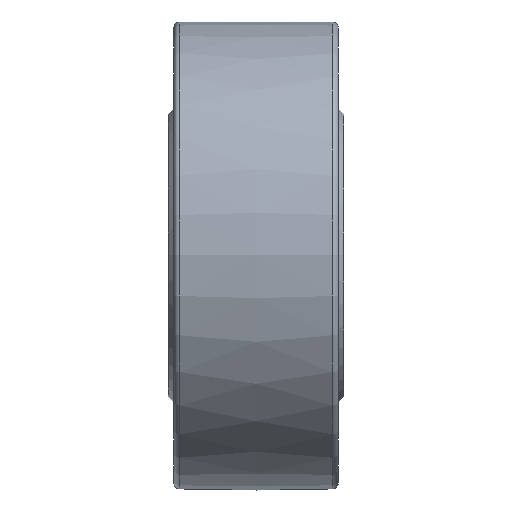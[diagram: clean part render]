
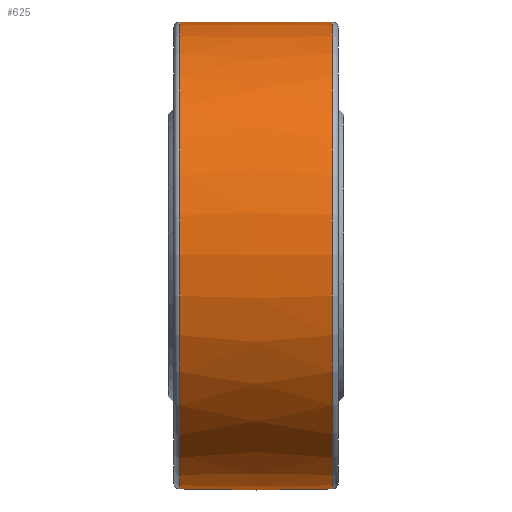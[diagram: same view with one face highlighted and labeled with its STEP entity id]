
A CAD part, front view. The second image highlights one B-rep face of the part: STEP entity #625.
In plain terms, the highlighted free-form (B-spline) face has degree [2, 2] with [3, 9] control points.
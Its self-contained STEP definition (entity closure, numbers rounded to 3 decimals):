
#175=(
BOUNDED_CURVE()
B_SPLINE_CURVE(2,(#1103,#1104,#1105),.UNSPECIFIED.,.F.,.F.)
B_SPLINE_CURVE_WITH_KNOTS((3,3),(-0.028,0.028),
 .UNSPECIFIED.)
CURVE()
GEOMETRIC_REPRESENTATION_ITEM()
RATIONAL_B_SPLINE_CURVE((1.,1.,1.))
REPRESENTATION_ITEM('')
);
#176=(
BOUNDED_SURFACE()
B_SPLINE_SURFACE(2,2,((#1072,#1073,#1074,#1075,#1076,#1077,#1078,#1079,
#1080),(#1081,#1082,#1083,#1084,#1085,#1086,#1087,#1088,#1089),(#1090,#1091,
#1092,#1093,#1094,#1095,#1096,#1097,#1098)),.UNSPECIFIED.,.F.,.T.,.F.)
B_SPLINE_SURFACE_WITH_KNOTS((3,3),(3,2,2,2,3),(-0.028,0.028),
(-3.142,-1.571,0.,1.571,3.142),
 .UNSPECIFIED.)
GEOMETRIC_REPRESENTATION_ITEM()
RATIONAL_B_SPLINE_SURFACE(((1.,0.707,1.,0.707,1.,
0.707,1.,0.707,1.),(1.,0.707,
1.,0.707,1.,0.707,
1.,0.707,1.),(1.,0.707,
1.,0.707,1.,0.707,1.,0.707,1.)))
REPRESENTATION_ITEM('')
SURFACE()
);
#224=FACE_OUTER_BOUND('',#274,.T.);
#274=EDGE_LOOP('',(#521,#522,#523,#524,#525,#526));
#368=CIRCLE('',#683,42.531);
#369=CIRCLE('',#684,42.531);
#370=CIRCLE('',#685,42.531);
#371=CIRCLE('',#686,42.531);
#418=VERTEX_POINT('',#1068);
#419=VERTEX_POINT('',#1069);
#420=VERTEX_POINT('',#1099);
#421=VERTEX_POINT('',#1100);
#468=EDGE_CURVE('',#418,#419,#368,.T.);
#469=EDGE_CURVE('',#419,#418,#369,.T.);
#470=EDGE_CURVE('',#420,#421,#370,.T.);
#471=EDGE_CURVE('',#421,#420,#371,.T.);
#472=EDGE_CURVE('',#421,#419,#175,.T.);
#521=ORIENTED_EDGE('',*,*,#470,.F.);
#522=ORIENTED_EDGE('',*,*,#471,.F.);
#523=ORIENTED_EDGE('',*,*,#472,.T.);
#524=ORIENTED_EDGE('',*,*,#468,.F.);
#525=ORIENTED_EDGE('',*,*,#469,.F.);
#526=ORIENTED_EDGE('',*,*,#472,.F.);
#625=ADVANCED_FACE('',(#224),#176,.F.);
#683=AXIS2_PLACEMENT_3D('',#1070,#814,#815);
#684=AXIS2_PLACEMENT_3D('',#1071,#816,#817);
#685=AXIS2_PLACEMENT_3D('',#1101,#818,#819);
#686=AXIS2_PLACEMENT_3D('',#1102,#820,#821);
#814=DIRECTION('center_axis',(-1.,0.,0.));
#815=DIRECTION('ref_axis',(0.,-1.,0.));
#816=DIRECTION('center_axis',(-1.,0.,0.));
#817=DIRECTION('ref_axis',(0.,-1.,0.));
#818=DIRECTION('center_axis',(1.,0.,0.));
#819=DIRECTION('ref_axis',(0.,-1.,0.));
#820=DIRECTION('center_axis',(1.,0.,0.));
#821=DIRECTION('ref_axis',(0.,-1.,0.));
#1068=CARTESIAN_POINT('',(-13.931,42.531,0.));
#1069=CARTESIAN_POINT('',(-13.931,0.,42.531));
#1070=CARTESIAN_POINT('Origin',(-13.931,0.,
0.));
#1071=CARTESIAN_POINT('Origin',(-13.931,0.,
0.));
#1072=CARTESIAN_POINT('Ctrl Pts',(-13.931,0.,
42.531));
#1073=CARTESIAN_POINT('Ctrl Pts',(-13.931,-42.531,42.531));
#1074=CARTESIAN_POINT('Ctrl Pts',(-13.931,-42.531,0.));
#1075=CARTESIAN_POINT('Ctrl Pts',(-13.931,-42.531,-42.531));
#1076=CARTESIAN_POINT('Ctrl Pts',(-13.931,0.,
-42.531));
#1077=CARTESIAN_POINT('Ctrl Pts',(-13.931,42.531,-42.531));
#1078=CARTESIAN_POINT('Ctrl Pts',(-13.931,42.531,0.));
#1079=CARTESIAN_POINT('Ctrl Pts',(-13.931,42.531,42.531));
#1080=CARTESIAN_POINT('Ctrl Pts',(-13.931,0.,
42.531));
#1081=CARTESIAN_POINT('Ctrl Pts',(0.,0.,
42.919));
#1082=CARTESIAN_POINT('Ctrl Pts',(0.,-42.919,
42.919));
#1083=CARTESIAN_POINT('Ctrl Pts',(0.,-42.919,
0.));
#1084=CARTESIAN_POINT('Ctrl Pts',(0.,-42.919,
-42.919));
#1085=CARTESIAN_POINT('Ctrl Pts',(0.,0.,
-42.919));
#1086=CARTESIAN_POINT('Ctrl Pts',(0.,42.919,
-42.919));
#1087=CARTESIAN_POINT('Ctrl Pts',(0.,42.919,
0.));
#1088=CARTESIAN_POINT('Ctrl Pts',(0.,42.919,
42.919));
#1089=CARTESIAN_POINT('Ctrl Pts',(0.,0.,
42.919));
#1090=CARTESIAN_POINT('Ctrl Pts',(13.931,0.,
42.531));
#1091=CARTESIAN_POINT('Ctrl Pts',(13.931,-42.531,42.531));
#1092=CARTESIAN_POINT('Ctrl Pts',(13.931,-42.531,0.));
#1093=CARTESIAN_POINT('Ctrl Pts',(13.931,-42.531,-42.531));
#1094=CARTESIAN_POINT('Ctrl Pts',(13.931,0.,
-42.531));
#1095=CARTESIAN_POINT('Ctrl Pts',(13.931,42.531,-42.531));
#1096=CARTESIAN_POINT('Ctrl Pts',(13.931,42.531,0.));
#1097=CARTESIAN_POINT('Ctrl Pts',(13.931,42.531,42.531));
#1098=CARTESIAN_POINT('Ctrl Pts',(13.931,0.,
42.531));
#1099=CARTESIAN_POINT('',(13.931,42.531,0.));
#1100=CARTESIAN_POINT('',(13.931,0.,42.531));
#1101=CARTESIAN_POINT('Origin',(13.931,0.,0.));
#1102=CARTESIAN_POINT('Origin',(13.931,0.,0.));
#1103=CARTESIAN_POINT('Ctrl Pts',(13.931,0.,
42.531));
#1104=CARTESIAN_POINT('Ctrl Pts',(0.,0.,
42.919));
#1105=CARTESIAN_POINT('Ctrl Pts',(-13.931,0.,
42.531));
